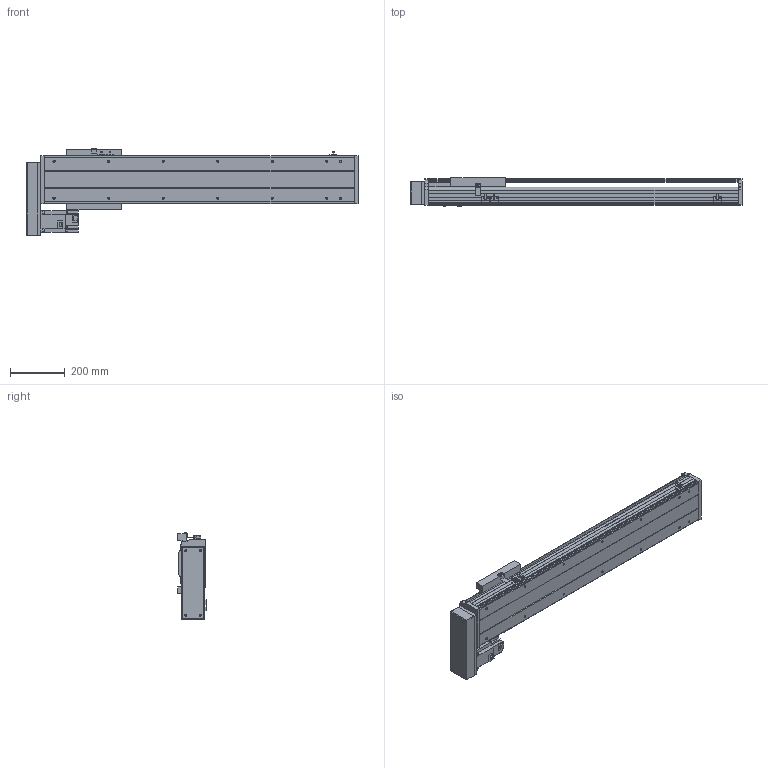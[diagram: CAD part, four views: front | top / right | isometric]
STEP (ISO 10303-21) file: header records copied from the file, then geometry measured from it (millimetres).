
FILE_DESCRIPTION(/* description */ ('STEP AP214'),/* implementation_level */ '2;1');
FILE_NAME(/* name */ 'PSS200-L10-S800-BR-T75-C1-N(0)',/* time_stamp */ '2022-06-09T03:16:41+02:00',/* author */ ('License CC BY-ND 4.0'),/* organization */ ('CADENAS'),/* preprocessor_version */ 'ST-DEVELOPER v18.102',/* originating_system */ 'PARTsolutions',/* authorisation */ ' ');
FILE_SCHEMA (('AUTOMOTIVE_DESIGN {1 0 10303 214 3 1 1}'));
Length unit declared in the file: millimetre
Products named in the file (8): PSS200-L10-S800-BR-T75-C1-N(0); PSS200-S800-BR-N_S; T75-p1; PSS200BR-N_h; PSS200-N_sensor; PSS200-BR-C1-N_sl; PSS200-N_Q; PSS200-S800-BR-C1-N_body
Assembly tree (9 placements, depth 2):
  PSS200-L10-S800-BR-T75-C1-N(0)
    PSS200-S800-BR-N_S
    T75-p1
    PSS200BR-N_h
    PSS200-N_sensor  x3
    PSS200-BR-C1-N_sl
    PSS200-N_Q
    PSS200-S800-BR-C1-N_body
Bounding box: 1216.85 x 105.3 x 317.86 mm (x, y, z)
Volume: 8529308.2 mm3; surface area: 1949345.7 mm2
Topology: 9 solids, 9 shells, 608 faces, 1621 edges, 1070 vertices
Faces by surface type: plane 466, cylinder 116, cone 22, sphere 4
Full cylindrical faces by diameter (mm): 4 x2, 4.5 x4, 6 x7, 6.647 x18, 7.4 x4, 8 x8, 10 x6, 25 x1, 40 x1, 67 x1
Entity records: 16833 total; most frequent: CARTESIAN_POINT 2891, DIRECTION 2792, ORIENTED_EDGE 2750, EDGE_CURVE 1375, LINE 1090, VECTOR 1090, VERTEX_POINT 950, AXIS2_PLACEMENT_3D 851
